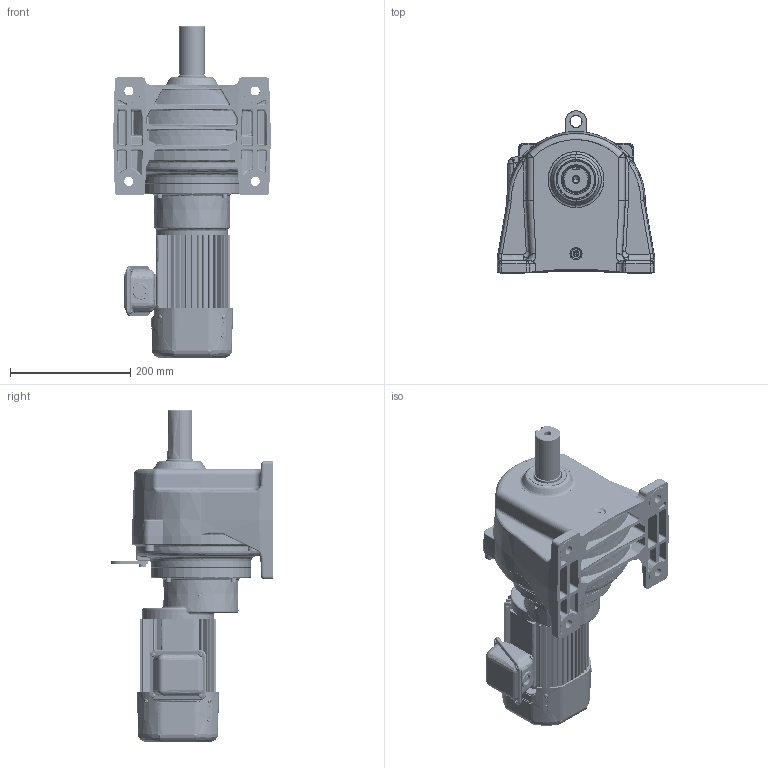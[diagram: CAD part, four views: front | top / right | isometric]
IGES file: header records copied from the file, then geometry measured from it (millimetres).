
Start section: SolidWorks IGES file using analytic representation for surfaces
Global section: file name: \\100.100.100.8\1_共有作業フォルダ\1-5_３Ｄデータ\solidworks\personal-folder\H.Nagayama\SGP1外形\P1(3D)\igs\TMLB2-04-(300~450).IGS; native system: SolidWorks 2018; preprocessor: SolidWorks 2018; author: sigma-giken; date: 200508.144601; units: millimetre
Bounding box: 262 x 269.5 x 551.3 mm (x, y, z)
Surface area: 792750.7 mm2 (no closed solid volume)
Topology: 0 solids, 0 shells, 2349 faces, 30400 edges, 30347 vertices
Faces by surface type: bspline 1284, revolution 1065
